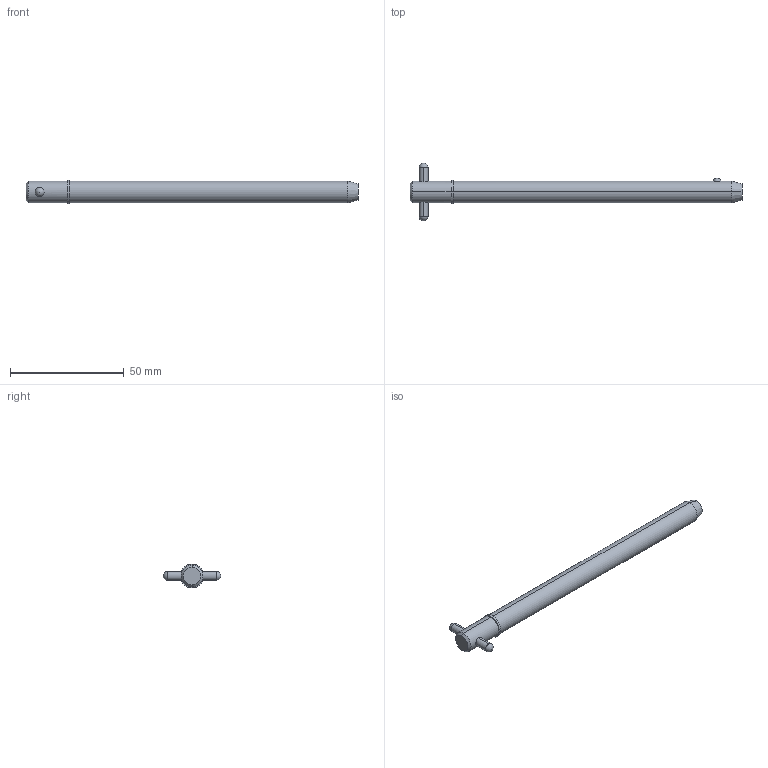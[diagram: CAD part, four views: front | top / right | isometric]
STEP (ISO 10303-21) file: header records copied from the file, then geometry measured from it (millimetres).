
FILE_DESCRIPTION (( 'STEP AP203' ), '1' );
FILE_NAME ('33018.W3745.step', '2024-11-19T17:11:57', ( '' ), ( '' ), 'SwSTEP 2.0', 'SolidWorks 2019', '' );
FILE_SCHEMA (( 'CONFIG_CONTROL_DESIGN' ));
Length unit declared in the file: millimetre
Products named in the file (3): 33018.W3745; Part2_33018.W3745; Part1_33018.W3745
Assembly tree (2 placements, depth 2):
  33018.W3745
    Part1_33018.W3745
    Part2_33018.W3745
Bounding box: 146.05 x 25.4 x 10.48 mm (x, y, z)
Volume: 10536.3 mm3; surface area: 4897.1 mm2
Topology: 2 solids, 2 shells, 22 faces, 47 edges, 30 vertices
Faces by surface type: cylinder 10, sphere 4, cone 4, plane 4
Entity records: 1023 total; most frequent: CARTESIAN_POINT 266, DIRECTION 110, ORIENTED_EDGE 82, AXIS2_PLACEMENT_3D 48, EDGE_CURVE 41, EDGE_LOOP 27, PERSON_AND_ORGANIZATION 26, VERTEX_POINT 26
